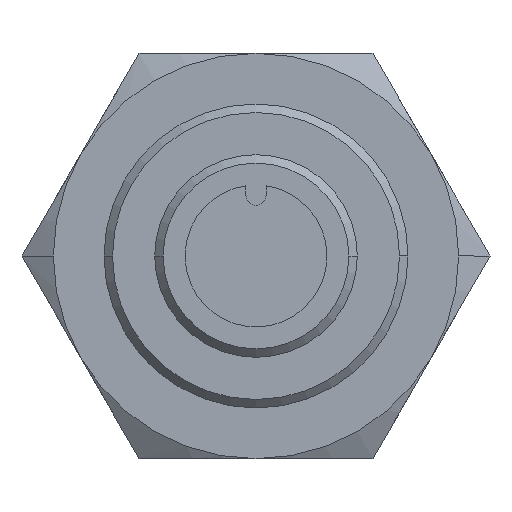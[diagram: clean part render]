
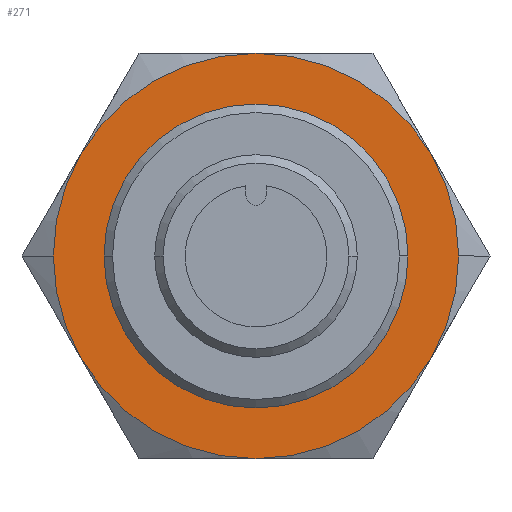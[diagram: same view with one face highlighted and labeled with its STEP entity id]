
A CAD part, left-side view. The second image highlights one B-rep face of the part: STEP entity #271.
In plain terms, the highlighted planar face has unit normal (-1, 0, 0).
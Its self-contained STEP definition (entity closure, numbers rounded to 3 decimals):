
#271 = ADVANCED_FACE( '', ( #480, #481 ), #482, .T. );
#480 = FACE_BOUND( '', #690, .T. );
#481 = FACE_OUTER_BOUND( '', #691, .T. );
#482 = PLANE( '', #692 );
#690 = EDGE_LOOP( '', ( #1413, #1414 ) );
#691 = EDGE_LOOP( '', ( #1415, #1416, #1417, #1418, #1419, #1420, #1421, #1422 ) );
#692 = AXIS2_PLACEMENT_3D( '', #1423, #1424, #1425 );
#1413 = ORIENTED_EDGE( '', *, *, #1602, .T. );
#1414 = ORIENTED_EDGE( '', *, *, #1590, .T. );
#1415 = ORIENTED_EDGE( '', *, *, #1640, .T. );
#1416 = ORIENTED_EDGE( '', *, *, #1579, .T. );
#1417 = ORIENTED_EDGE( '', *, *, #1635, .T. );
#1418 = ORIENTED_EDGE( '', *, *, #1636, .T. );
#1419 = ORIENTED_EDGE( '', *, *, #1581, .T. );
#1420 = ORIENTED_EDGE( '', *, *, #1637, .T. );
#1421 = ORIENTED_EDGE( '', *, *, #1638, .T. );
#1422 = ORIENTED_EDGE( '', *, *, #1639, .T. );
#1423 = CARTESIAN_POINT( '', ( 36., 6., 0. ) );
#1424 = DIRECTION( '', ( -1., 0., 0. ) );
#1425 = DIRECTION( '', ( 0., 1., 0. ) );
#1579 = EDGE_CURVE( '', #1881, #1883, #1885, .T. );
#1581 = EDGE_CURVE( '', #1889, #1886, #1890, .T. );
#1590 = EDGE_CURVE( '', #1907, #1904, #1908, .T. );
#1602 = EDGE_CURVE( '', #1904, #1907, #1925, .T. );
#1635 = EDGE_CURVE( '', #1883, #1931, #1974, .T. );
#1636 = EDGE_CURVE( '', #1931, #1889, #1975, .T. );
#1637 = EDGE_CURVE( '', #1886, #1962, #1976, .T. );
#1638 = EDGE_CURVE( '', #1962, #1954, #1977, .T. );
#1639 = EDGE_CURVE( '', #1954, #1941, #1978, .T. );
#1640 = EDGE_CURVE( '', #1941, #1881, #1979, .T. );
#1881 = VERTEX_POINT( '', #2771 );
#1883 = VERTEX_POINT( '', #2774 );
#1885 = CIRCLE( '', #2785, 12. );
#1886 = VERTEX_POINT( '', #2786 );
#1889 = VERTEX_POINT( '', #2790 );
#1890 = CIRCLE( '', #2791, 12. );
#1904 = VERTEX_POINT( '', #2834 );
#1907 = VERTEX_POINT( '', #2838 );
#1908 = CIRCLE( '', #2839, 9. );
#1925 = CIRCLE( '', #2861, 9. );
#1931 = VERTEX_POINT( '', #2877 );
#1941 = VERTEX_POINT( '', #2925 );
#1954 = VERTEX_POINT( '', #3002 );
#1962 = VERTEX_POINT( '', #3047 );
#1974 = CIRCLE( '', #3096, 12. );
#1975 = CIRCLE( '', #3097, 12. );
#1976 = CIRCLE( '', #3098, 12. );
#1977 = CIRCLE( '', #3099, 12. );
#1978 = CIRCLE( '', #3100, 12. );
#1979 = CIRCLE( '', #3101, 12. );
#2771 = CARTESIAN_POINT( '', ( 36., 12., 0. ) );
#2774 = CARTESIAN_POINT( '', ( 36., 10.392, -6. ) );
#2785 = AXIS2_PLACEMENT_3D( '', #3314, #3315, #3316 );
#2786 = CARTESIAN_POINT( '', ( 36., -12., 0. ) );
#2790 = CARTESIAN_POINT( '', ( 36., -10.392, -6. ) );
#2791 = AXIS2_PLACEMENT_3D( '', #3318, #3319, #3320 );
#2834 = CARTESIAN_POINT( '', ( 36., 9., 0. ) );
#2838 = CARTESIAN_POINT( '', ( 36., -9., 0. ) );
#2839 = AXIS2_PLACEMENT_3D( '', #3330, #3331, #3332 );
#2861 = AXIS2_PLACEMENT_3D( '', #3356, #3357, #3358 );
#2877 = CARTESIAN_POINT( '', ( 36., 0., -12. ) );
#2925 = CARTESIAN_POINT( '', ( 36., 10.392, 6. ) );
#3002 = CARTESIAN_POINT( '', ( 36., 0., 12. ) );
#3047 = CARTESIAN_POINT( '', ( 36., -10.392, 6. ) );
#3096 = AXIS2_PLACEMENT_3D( '', #3383, #3384, #3385 );
#3097 = AXIS2_PLACEMENT_3D( '', #3386, #3387, #3388 );
#3098 = AXIS2_PLACEMENT_3D( '', #3389, #3390, #3391 );
#3099 = AXIS2_PLACEMENT_3D( '', #3392, #3393, #3394 );
#3100 = AXIS2_PLACEMENT_3D( '', #3395, #3396, #3397 );
#3101 = AXIS2_PLACEMENT_3D( '', #3398, #3399, #3400 );
#3314 = CARTESIAN_POINT( '', ( 36., 0., 0. ) );
#3315 = DIRECTION( '', ( -1., 0., 0. ) );
#3316 = DIRECTION( '', ( 0., 1., 0. ) );
#3318 = CARTESIAN_POINT( '', ( 36., 0., 0. ) );
#3319 = DIRECTION( '', ( -1., 0., 0. ) );
#3320 = DIRECTION( '', ( 0., 1., 0. ) );
#3330 = CARTESIAN_POINT( '', ( 36., 0., 0. ) );
#3331 = DIRECTION( '', ( 1., 0., 0. ) );
#3332 = DIRECTION( '', ( 0., 1., 0. ) );
#3356 = CARTESIAN_POINT( '', ( 36., 0., 0. ) );
#3357 = DIRECTION( '', ( 1., 0., 0. ) );
#3358 = DIRECTION( '', ( 0., 1., 0. ) );
#3383 = CARTESIAN_POINT( '', ( 36., 0., 0. ) );
#3384 = DIRECTION( '', ( -1., 0., 0. ) );
#3385 = DIRECTION( '', ( 0., 1., 0. ) );
#3386 = CARTESIAN_POINT( '', ( 36., 0., 0. ) );
#3387 = DIRECTION( '', ( -1., 0., 0. ) );
#3388 = DIRECTION( '', ( 0., 1., 0. ) );
#3389 = CARTESIAN_POINT( '', ( 36., 0., 0. ) );
#3390 = DIRECTION( '', ( -1., 0., 0. ) );
#3391 = DIRECTION( '', ( 0., 1., 0. ) );
#3392 = CARTESIAN_POINT( '', ( 36., 0., 0. ) );
#3393 = DIRECTION( '', ( -1., 0., 0. ) );
#3394 = DIRECTION( '', ( 0., 1., 0. ) );
#3395 = CARTESIAN_POINT( '', ( 36., 0., 0. ) );
#3396 = DIRECTION( '', ( -1., 0., 0. ) );
#3397 = DIRECTION( '', ( 0., 1., 0. ) );
#3398 = CARTESIAN_POINT( '', ( 36., 0., 0. ) );
#3399 = DIRECTION( '', ( -1., 0., 0. ) );
#3400 = DIRECTION( '', ( 0., 1., 0. ) );
